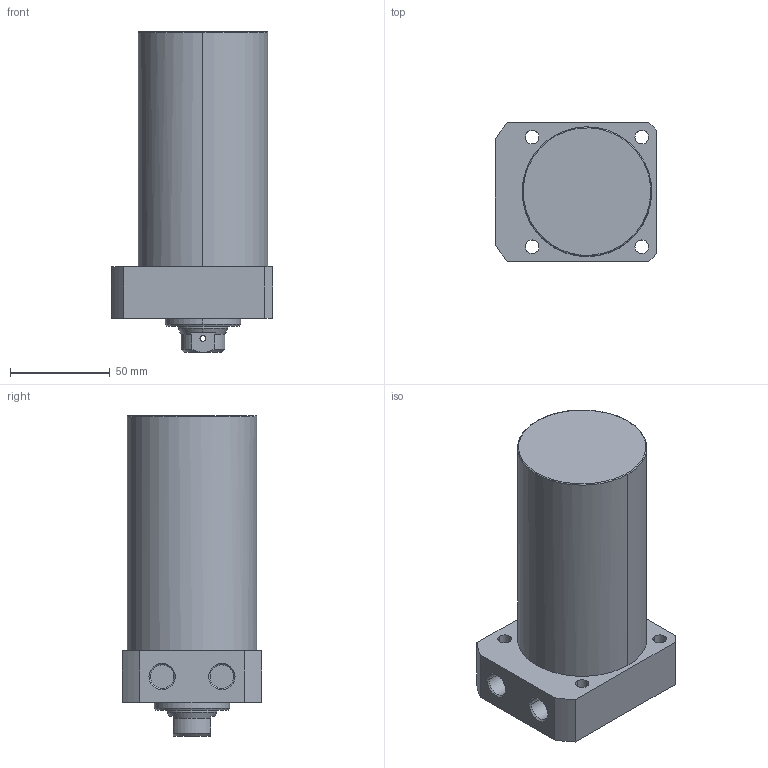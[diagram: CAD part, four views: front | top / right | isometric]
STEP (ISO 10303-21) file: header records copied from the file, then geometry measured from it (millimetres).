
FILE_DESCRIPTION((' '),'2;1');
FILE_NAME( 'TLLR-065CB-085.STEP.stp', '2025-10-24T16:34:56', (' '), ('--- Datakit www.datakit.com---'), ' Datakit CrossCadWare V2024.1 Dec 21 2023', 'Mastercam 2025', ' ');
FILE_SCHEMA(('AUTOMOTIVE_DESIGN { 1 0 10303 214 1 1 1 1 }'));
Length unit declared in the file: millimetre
Products named in the file (1): TLLR-065CB-085
Bounding box: 81 x 70 x 161 mm (x, y, z)
Volume: 535446.8 mm3; surface area: 48566.4 mm2
Topology: 1 solids, 1 shells, 67 faces, 197 edges, 136 vertices
Faces by surface type: cylinder 32, plane 19, cone 14, torus 2
Entity records: 3278 total; most frequent: CARTESIAN_POINT 1359, DIRECTION 426, ORIENTED_EDGE 390, EDGE_CURVE 195, AXIS2_PLACEMENT_3D 179, VERTEX_POINT 136, CIRCLE 111, EDGE_LOOP 85
